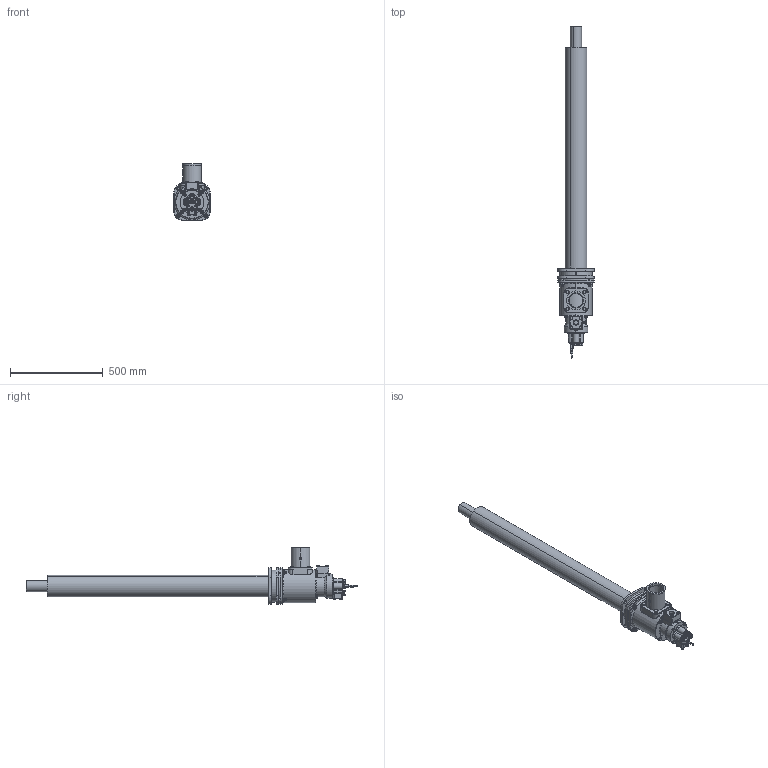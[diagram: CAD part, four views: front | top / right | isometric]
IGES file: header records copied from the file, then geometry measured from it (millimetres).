
Global section: file name: No Iges File Name specified; native system: AutoDesk Inventor R12.0; preprocessor: AutoDesk Inventor Iges Exporter R12.0; date: 20110916.104146; units: millimetre
Bounding box: 198 x 1792.65 x 307 mm (x, y, z)
Volume: 21747343.7 mm3; surface area: 1123550.5 mm2
Topology: 20 solids, 20 shells, 1940 faces, 4776 edges, 2967 vertices
Faces by surface type: plane 835, cylinder 333, bspline 323, cone 276, revolution 137, torus 36
Full cylindrical faces by diameter (mm): 14.8 x12, 21.1 x4
